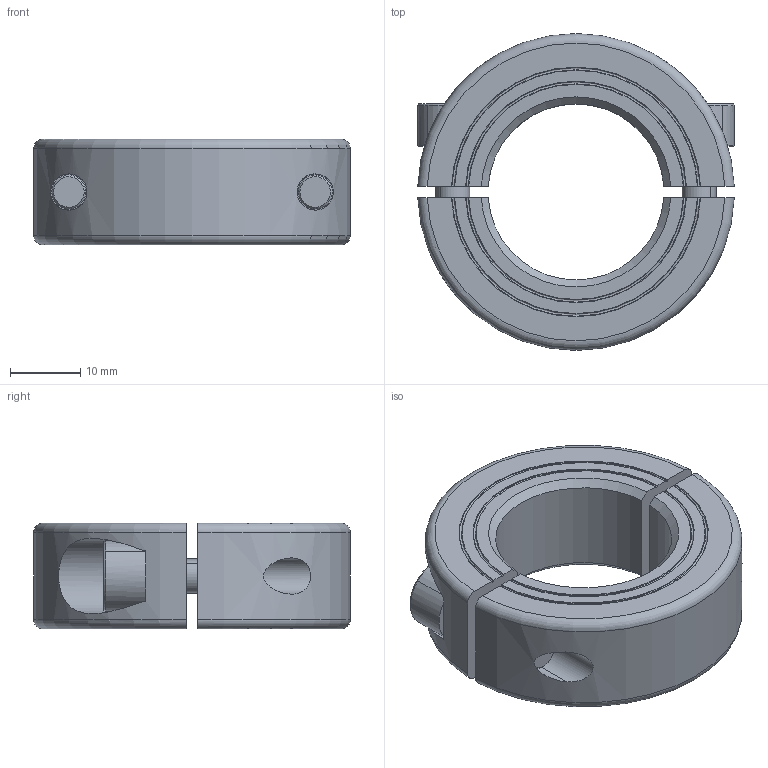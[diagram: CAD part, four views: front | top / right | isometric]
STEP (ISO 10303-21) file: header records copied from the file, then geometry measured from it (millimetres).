
FILE_DESCRIPTION((''),'2;1');
FILE_NAME('MSP-25-X','2016-09-09T',('SYSTEM'),(''),'PRO/ENGINEER BY PARAMETRIC TECHNOLOGY CORPORATION, 2015110','PRO/ENGINEER BY PARAMETRIC TECHNOLOGY CORPORATION, 2015110','');
FILE_SCHEMA(('AUTOMOTIVE_DESIGN { 1 0 10303 214 1 1 1 1 }'));
Length unit declared in the file: inch
Products named in the file (1): MSP-25-X
Bounding box: 45 x 45 x 15 mm (x, y, z)
Volume: 15053.9 mm3; surface area: 7560.5 mm2
Topology: 2 solids, 2 shells, 90 faces, 223 edges, 145 vertices
Faces by surface type: plane 36, cylinder 26, cone 20, torus 8
Entity records: 3629 total; most frequent: CARTESIAN_POINT 815, ORIENTED_EDGE 446, DIRECTION 430, EDGE_CURVE 223, AXIS2_PLACEMENT_3D 168, VERTEX_POINT 145, EDGE_LOOP 102, VECTOR 94
